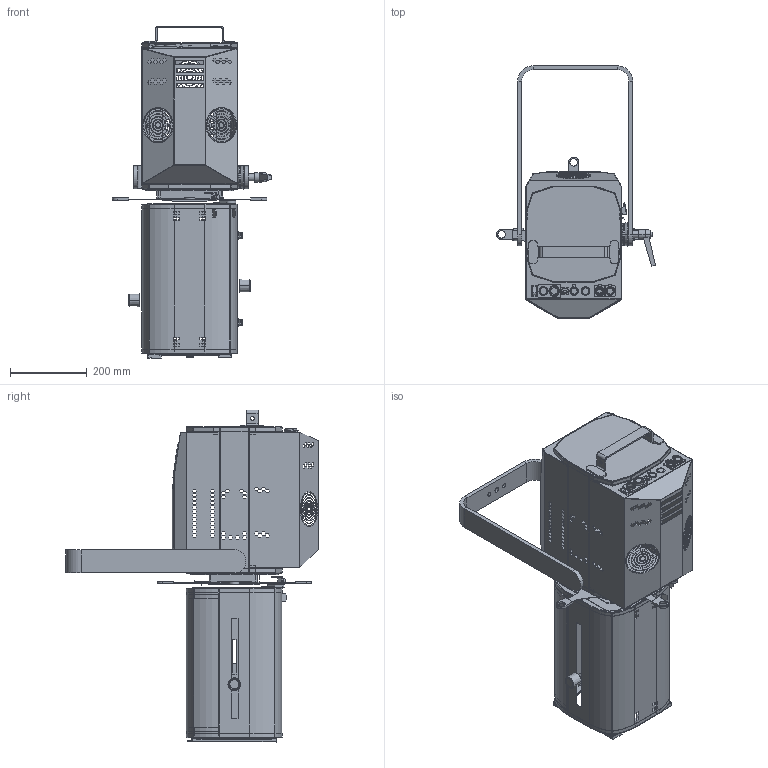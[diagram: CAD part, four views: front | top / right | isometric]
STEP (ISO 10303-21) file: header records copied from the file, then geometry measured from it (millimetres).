
FILE_DESCRIPTION (( 'STEP AP203' ), '1' );
FILE_NAME ('_964 CHARLES.STEP', '2018-11-27T13:28:09', ( '' ), ( '' ), 'SwSTEP 2.0', 'SolidWorks 2018', '' );
FILE_SCHEMA (( 'CONFIG_CONTROL_DESIGN' ));
Products named in the file (1): _964 CHARLES
Bounding box: 415.13 x 659 x 866.7 mm (x, y, z)
Volume: 2552316.3 mm3; surface area: 3129491.5 mm2
Topology: 110 solids, 110 shells, 3709 faces, 9227 edges, 5669 vertices
Faces by surface type: plane 2549, cylinder 777, torus 197, bspline 136, cone 50
Entity records: 117554 total; most frequent: CARTESIAN_POINT 28853, ORIENTED_EDGE 18418, DIRECTION 17906, EDGE_CURVE 9209, LINE 6816, VECTOR 6816, VERTEX_POINT 5669, AXIS2_PLACEMENT_3D 5545
